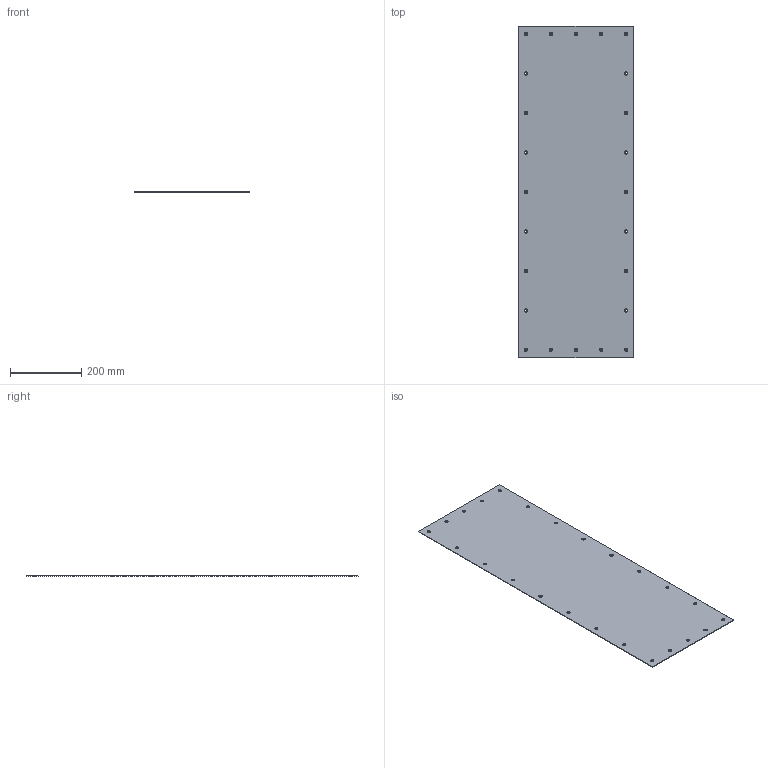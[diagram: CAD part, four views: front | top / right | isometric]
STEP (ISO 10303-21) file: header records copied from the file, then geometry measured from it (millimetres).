
FILE_DESCRIPTION((''),'2;1');
FILE_NAME('C:\Documents and Settings\Administrator\My Documents\Andys Backup Data\ANDY''S INVENTOR\INVENTOR LIBRARIES\MINITEC INVENTOR LIBRARIES\BELT AND ROLLER CONVEYORS\A PACKED FILES\STEP FILES\29.5010 SUPPORT SHEET.stp','2010-07-06T10:05:52',('Administrator'),(''),'Autodesk Inventor 2009','Autodesk Inventor 2009','');
FILE_SCHEMA(('CONFIG_CONTROL_DESIGN'));
Length unit declared in the file: millimetre
Products named in the file (1): 29.5010 SUPPORT SHEET
Bounding box: 321 x 930 x 1.59 mm (x, y, z)
Volume: 472045.2 mm3; surface area: 599820.2 mm2
Topology: 1 solids, 1 shells, 32 faces, 114 edges, 84 vertices
Faces by surface type: bspline 24, plane 8
Entity records: 1367 total; most frequent: CARTESIAN_POINT 567, DIRECTION 132, ORIENTED_EDGE 132, EDGE_LOOP 104, FACE_BOUND 72, EDGE_CURVE 66, VERTEX_POINT 60, AXIS2_PLACEMENT_3D 57
